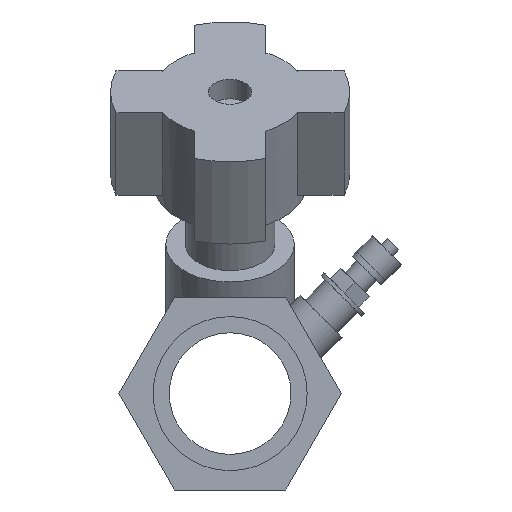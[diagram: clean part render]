
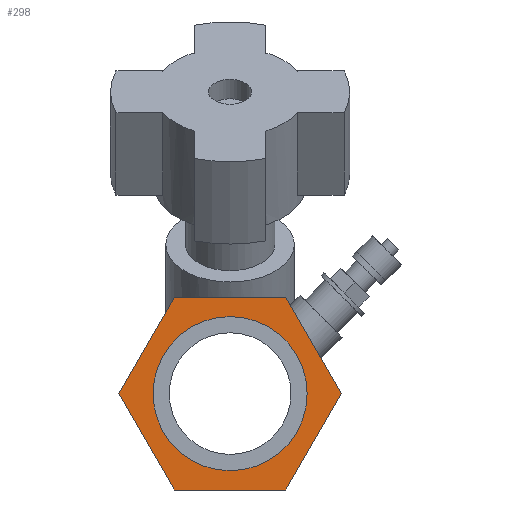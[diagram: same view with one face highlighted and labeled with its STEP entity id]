
A CAD part, left-side view. The second image highlights one B-rep face of the part: STEP entity #298.
In plain terms, the highlighted planar face has unit normal (-1, 0, 0).
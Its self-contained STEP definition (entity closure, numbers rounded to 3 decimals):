
#233 = CYLINDRICAL_SURFACE('',#234,0.881);
#234 = AXIS2_PLACEMENT_3D('',#235,#236,#237);
#235 = CARTESIAN_POINT('',(0.,0.,0.));
#236 = DIRECTION('',(-1.,0.,0.));
#237 = DIRECTION('',(0.,-1.,0.));
#250 = VERTEX_POINT('',#251);
#251 = CARTESIAN_POINT('',(0.,-0.881,0.));
#271 = EDGE_CURVE('',#250,#250,#272,.T.);
#272 = SURFACE_CURVE('',#273,(#278,#285),.PCURVE_S1.);
#273 = CIRCLE('',#274,0.881);
#274 = AXIS2_PLACEMENT_3D('',#275,#276,#277);
#275 = CARTESIAN_POINT('',(0.,0.,0.));
#276 = DIRECTION('',(1.,0.,0.));
#277 = DIRECTION('',(0.,-1.,0.));
#278 = PCURVE('',#233,#279);
#279 = DEFINITIONAL_REPRESENTATION('',(#280),#284);
#280 = LINE('',#281,#282);
#281 = CARTESIAN_POINT('',(6.283,0.));
#282 = VECTOR('',#283,1.);
#283 = DIRECTION('',(-1.,0.));
#284 = ( GEOMETRIC_REPRESENTATION_CONTEXT(2) 
PARAMETRIC_REPRESENTATION_CONTEXT() REPRESENTATION_CONTEXT('2D SPACE',''
  ) );
#285 = PCURVE('',#286,#291);
#286 = PLANE('',#287);
#287 = AXIS2_PLACEMENT_3D('',#288,#289,#290);
#288 = CARTESIAN_POINT('',(0.,0.,0.));
#289 = DIRECTION('',(1.,0.,0.));
#290 = DIRECTION('',(0.,0.,-1.));
#291 = DEFINITIONAL_REPRESENTATION('',(#292),#296);
#292 = CIRCLE('',#293,0.881);
#293 = AXIS2_PLACEMENT_2D('',#294,#295);
#294 = CARTESIAN_POINT('',(0.,0.));
#295 = DIRECTION('',(0.,-1.));
#296 = ( GEOMETRIC_REPRESENTATION_CONTEXT(2) 
PARAMETRIC_REPRESENTATION_CONTEXT() REPRESENTATION_CONTEXT('2D SPACE',''
  ) );
#298 = ADVANCED_FACE('',(#299,#302),#286,.F.);
#299 = FACE_BOUND('',#300,.T.);
#300 = EDGE_LOOP('',(#301));
#301 = ORIENTED_EDGE('',*,*,#271,.T.);
#302 = FACE_BOUND('',#303,.T.);
#303 = EDGE_LOOP('',(#304,#334,#362,#390,#418,#446));
#304 = ORIENTED_EDGE('',*,*,#305,.T.);
#305 = EDGE_CURVE('',#306,#308,#310,.T.);
#306 = VERTEX_POINT('',#307);
#307 = CARTESIAN_POINT('',(0.,-0.636,-1.102));
#308 = VERTEX_POINT('',#309);
#309 = CARTESIAN_POINT('',(0.,-1.272,0.));
#310 = SURFACE_CURVE('',#311,(#315,#322),.PCURVE_S1.);
#311 = LINE('',#312,#313);
#312 = CARTESIAN_POINT('',(0.,-0.636,-1.102));
#313 = VECTOR('',#314,1.);
#314 = DIRECTION('',(0.,-0.5,0.866));
#315 = PCURVE('',#286,#316);
#316 = DEFINITIONAL_REPRESENTATION('',(#317),#321);
#317 = LINE('',#318,#319);
#318 = CARTESIAN_POINT('',(1.102,-0.636));
#319 = VECTOR('',#320,1.);
#320 = DIRECTION('',(-0.866,-0.5));
#321 = ( GEOMETRIC_REPRESENTATION_CONTEXT(2) 
PARAMETRIC_REPRESENTATION_CONTEXT() REPRESENTATION_CONTEXT('2D SPACE',''
  ) );
#322 = PCURVE('',#323,#328);
#323 = PLANE('',#324);
#324 = AXIS2_PLACEMENT_3D('',#325,#326,#327);
#325 = CARTESIAN_POINT('',(0.,-0.954,-0.551));
#326 = DIRECTION('',(0.,-0.866,-0.5));
#327 = DIRECTION('',(0.,0.5,-0.866));
#328 = DEFINITIONAL_REPRESENTATION('',(#329),#333);
#329 = LINE('',#330,#331);
#330 = CARTESIAN_POINT('',(0.636,0.));
#331 = VECTOR('',#332,1.);
#332 = DIRECTION('',(-1.,0.));
#333 = ( GEOMETRIC_REPRESENTATION_CONTEXT(2) 
PARAMETRIC_REPRESENTATION_CONTEXT() REPRESENTATION_CONTEXT('2D SPACE',''
  ) );
#334 = ORIENTED_EDGE('',*,*,#335,.T.);
#335 = EDGE_CURVE('',#308,#336,#338,.T.);
#336 = VERTEX_POINT('',#337);
#337 = CARTESIAN_POINT('',(0.,-0.636,1.102));
#338 = SURFACE_CURVE('',#339,(#343,#350),.PCURVE_S1.);
#339 = LINE('',#340,#341);
#340 = CARTESIAN_POINT('',(0.,-1.272,0.));
#341 = VECTOR('',#342,1.);
#342 = DIRECTION('',(0.,0.5,0.866));
#343 = PCURVE('',#286,#344);
#344 = DEFINITIONAL_REPRESENTATION('',(#345),#349);
#345 = LINE('',#346,#347);
#346 = CARTESIAN_POINT('',(0.,-1.272));
#347 = VECTOR('',#348,1.);
#348 = DIRECTION('',(-0.866,0.5));
#349 = ( GEOMETRIC_REPRESENTATION_CONTEXT(2) 
PARAMETRIC_REPRESENTATION_CONTEXT() REPRESENTATION_CONTEXT('2D SPACE',''
  ) );
#350 = PCURVE('',#351,#356);
#351 = PLANE('',#352);
#352 = AXIS2_PLACEMENT_3D('',#353,#354,#355);
#353 = CARTESIAN_POINT('',(0.,-0.954,0.551));
#354 = DIRECTION('',(0.,-0.866,0.5));
#355 = DIRECTION('',(0.,-0.5,-0.866));
#356 = DEFINITIONAL_REPRESENTATION('',(#357),#361);
#357 = LINE('',#358,#359);
#358 = CARTESIAN_POINT('',(0.636,0.));
#359 = VECTOR('',#360,1.);
#360 = DIRECTION('',(-1.,0.));
#361 = ( GEOMETRIC_REPRESENTATION_CONTEXT(2) 
PARAMETRIC_REPRESENTATION_CONTEXT() REPRESENTATION_CONTEXT('2D SPACE',''
  ) );
#362 = ORIENTED_EDGE('',*,*,#363,.T.);
#363 = EDGE_CURVE('',#336,#364,#366,.T.);
#364 = VERTEX_POINT('',#365);
#365 = CARTESIAN_POINT('',(0.,0.636,1.102));
#366 = SURFACE_CURVE('',#367,(#371,#378),.PCURVE_S1.);
#367 = LINE('',#368,#369);
#368 = CARTESIAN_POINT('',(0.,-0.636,1.102));
#369 = VECTOR('',#370,1.);
#370 = DIRECTION('',(0.,1.,0.));
#371 = PCURVE('',#286,#372);
#372 = DEFINITIONAL_REPRESENTATION('',(#373),#377);
#373 = LINE('',#374,#375);
#374 = CARTESIAN_POINT('',(-1.102,-0.636));
#375 = VECTOR('',#376,1.);
#376 = DIRECTION('',(0.,1.));
#377 = ( GEOMETRIC_REPRESENTATION_CONTEXT(2) 
PARAMETRIC_REPRESENTATION_CONTEXT() REPRESENTATION_CONTEXT('2D SPACE',''
  ) );
#378 = PCURVE('',#379,#384);
#379 = PLANE('',#380);
#380 = AXIS2_PLACEMENT_3D('',#381,#382,#383);
#381 = CARTESIAN_POINT('',(0.,0.,1.102));
#382 = DIRECTION('',(0.,0.,1.));
#383 = DIRECTION('',(0.,-1.,0.));
#384 = DEFINITIONAL_REPRESENTATION('',(#385),#389);
#385 = LINE('',#386,#387);
#386 = CARTESIAN_POINT('',(0.636,0.));
#387 = VECTOR('',#388,1.);
#388 = DIRECTION('',(-1.,0.));
#389 = ( GEOMETRIC_REPRESENTATION_CONTEXT(2) 
PARAMETRIC_REPRESENTATION_CONTEXT() REPRESENTATION_CONTEXT('2D SPACE',''
  ) );
#390 = ORIENTED_EDGE('',*,*,#391,.T.);
#391 = EDGE_CURVE('',#364,#392,#394,.T.);
#392 = VERTEX_POINT('',#393);
#393 = CARTESIAN_POINT('',(0.,1.272,0.));
#394 = SURFACE_CURVE('',#395,(#399,#406),.PCURVE_S1.);
#395 = LINE('',#396,#397);
#396 = CARTESIAN_POINT('',(0.,0.636,1.102));
#397 = VECTOR('',#398,1.);
#398 = DIRECTION('',(0.,0.5,-0.866));
#399 = PCURVE('',#286,#400);
#400 = DEFINITIONAL_REPRESENTATION('',(#401),#405);
#401 = LINE('',#402,#403);
#402 = CARTESIAN_POINT('',(-1.102,0.636));
#403 = VECTOR('',#404,1.);
#404 = DIRECTION('',(0.866,0.5));
#405 = ( GEOMETRIC_REPRESENTATION_CONTEXT(2) 
PARAMETRIC_REPRESENTATION_CONTEXT() REPRESENTATION_CONTEXT('2D SPACE',''
  ) );
#406 = PCURVE('',#407,#412);
#407 = PLANE('',#408);
#408 = AXIS2_PLACEMENT_3D('',#409,#410,#411);
#409 = CARTESIAN_POINT('',(0.,0.954,0.551));
#410 = DIRECTION('',(0.,0.866,0.5));
#411 = DIRECTION('',(0.,-0.5,0.866));
#412 = DEFINITIONAL_REPRESENTATION('',(#413),#417);
#413 = LINE('',#414,#415);
#414 = CARTESIAN_POINT('',(0.636,0.));
#415 = VECTOR('',#416,1.);
#416 = DIRECTION('',(-1.,0.));
#417 = ( GEOMETRIC_REPRESENTATION_CONTEXT(2) 
PARAMETRIC_REPRESENTATION_CONTEXT() REPRESENTATION_CONTEXT('2D SPACE',''
  ) );
#418 = ORIENTED_EDGE('',*,*,#419,.T.);
#419 = EDGE_CURVE('',#392,#420,#422,.T.);
#420 = VERTEX_POINT('',#421);
#421 = CARTESIAN_POINT('',(0.,0.636,-1.102));
#422 = SURFACE_CURVE('',#423,(#427,#434),.PCURVE_S1.);
#423 = LINE('',#424,#425);
#424 = CARTESIAN_POINT('',(0.,1.272,0.));
#425 = VECTOR('',#426,1.);
#426 = DIRECTION('',(0.,-0.5,-0.866));
#427 = PCURVE('',#286,#428);
#428 = DEFINITIONAL_REPRESENTATION('',(#429),#433);
#429 = LINE('',#430,#431);
#430 = CARTESIAN_POINT('',(0.,1.272));
#431 = VECTOR('',#432,1.);
#432 = DIRECTION('',(0.866,-0.5));
#433 = ( GEOMETRIC_REPRESENTATION_CONTEXT(2) 
PARAMETRIC_REPRESENTATION_CONTEXT() REPRESENTATION_CONTEXT('2D SPACE',''
  ) );
#434 = PCURVE('',#435,#440);
#435 = PLANE('',#436);
#436 = AXIS2_PLACEMENT_3D('',#437,#438,#439);
#437 = CARTESIAN_POINT('',(0.,0.954,-0.551));
#438 = DIRECTION('',(0.,0.866,-0.5));
#439 = DIRECTION('',(0.,0.5,0.866));
#440 = DEFINITIONAL_REPRESENTATION('',(#441),#445);
#441 = LINE('',#442,#443);
#442 = CARTESIAN_POINT('',(0.636,0.));
#443 = VECTOR('',#444,1.);
#444 = DIRECTION('',(-1.,0.));
#445 = ( GEOMETRIC_REPRESENTATION_CONTEXT(2) 
PARAMETRIC_REPRESENTATION_CONTEXT() REPRESENTATION_CONTEXT('2D SPACE',''
  ) );
#446 = ORIENTED_EDGE('',*,*,#447,.T.);
#447 = EDGE_CURVE('',#420,#306,#448,.T.);
#448 = SURFACE_CURVE('',#449,(#453,#460),.PCURVE_S1.);
#449 = LINE('',#450,#451);
#450 = CARTESIAN_POINT('',(0.,0.636,-1.102));
#451 = VECTOR('',#452,1.);
#452 = DIRECTION('',(0.,-1.,0.));
#453 = PCURVE('',#286,#454);
#454 = DEFINITIONAL_REPRESENTATION('',(#455),#459);
#455 = LINE('',#456,#457);
#456 = CARTESIAN_POINT('',(1.102,0.636));
#457 = VECTOR('',#458,1.);
#458 = DIRECTION('',(0.,-1.));
#459 = ( GEOMETRIC_REPRESENTATION_CONTEXT(2) 
PARAMETRIC_REPRESENTATION_CONTEXT() REPRESENTATION_CONTEXT('2D SPACE',''
  ) );
#460 = PCURVE('',#461,#466);
#461 = PLANE('',#462);
#462 = AXIS2_PLACEMENT_3D('',#463,#464,#465);
#463 = CARTESIAN_POINT('',(0.,0.,-1.102));
#464 = DIRECTION('',(0.,0.,-1.));
#465 = DIRECTION('',(0.,1.,0.));
#466 = DEFINITIONAL_REPRESENTATION('',(#467),#471);
#467 = LINE('',#468,#469);
#468 = CARTESIAN_POINT('',(0.636,0.));
#469 = VECTOR('',#470,1.);
#470 = DIRECTION('',(-1.,0.));
#471 = ( GEOMETRIC_REPRESENTATION_CONTEXT(2) 
PARAMETRIC_REPRESENTATION_CONTEXT() REPRESENTATION_CONTEXT('2D SPACE',''
  ) );
